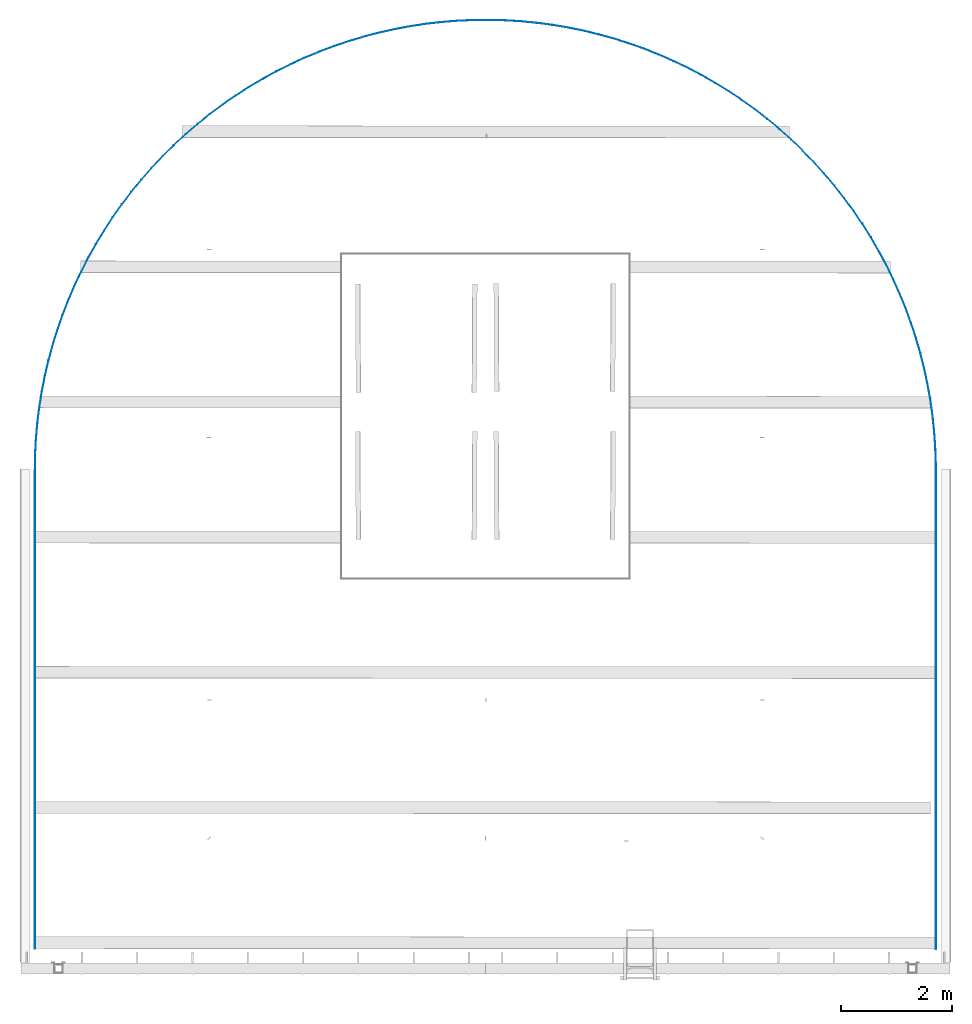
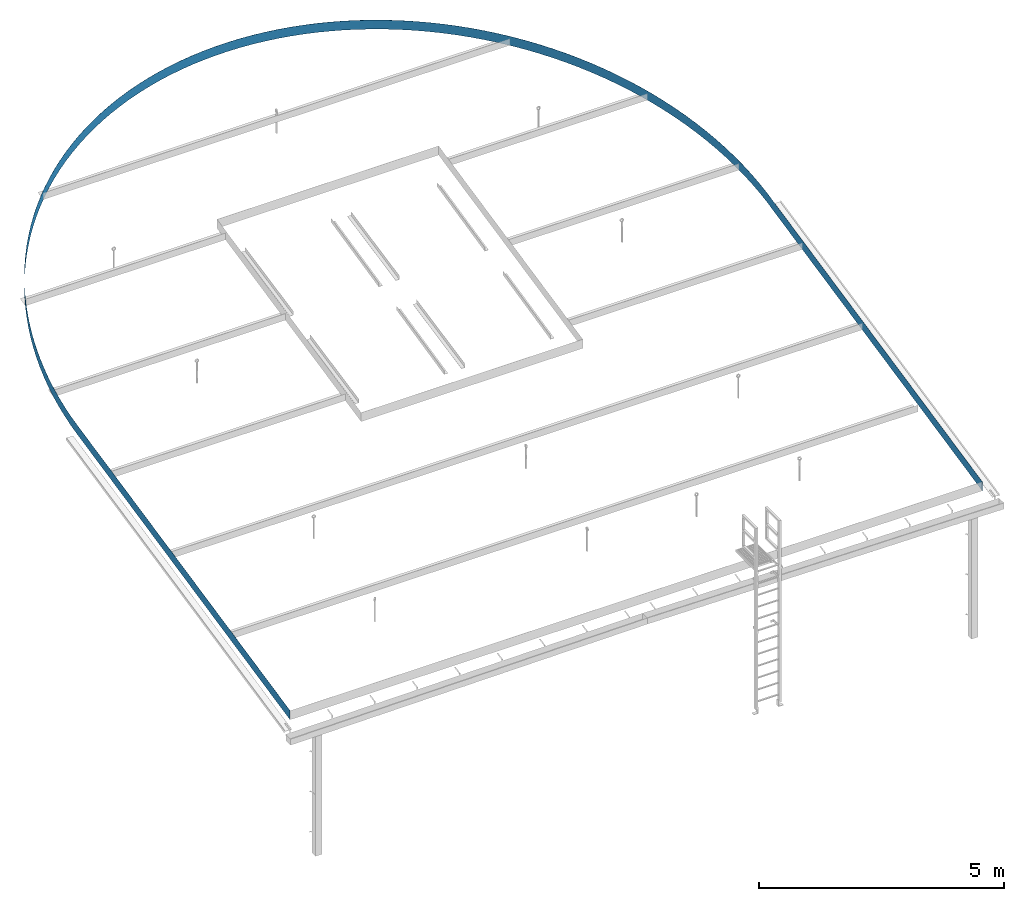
# One storey, part 5 of 7: 1 slab.
"""IFC4 building model written with IfcOpenShell, lengths in millimetres."""

from ifc_helpers import new_model, entity, si_unit, converted_unit, derived_unit, direction, frame, origin_with_axes, place, context, subcontext, project, spatial, polygons, material, type_object, element, save


model = new_model("IFC4")

# Units and contexts
model_context = context("Model", 3, precision=0.01, world=origin_with_axes(), true_north=direction((0.0, 1.0)))
body_context = subcontext(model_context, "Body", "Model", "MODEL_VIEW")
ifc_project = project(units=[si_unit("LENGTHUNIT", "METRE", prefix="MILLI"), si_unit("AREAUNIT", "SQUARE_METRE"), si_unit("VOLUMEUNIT", "CUBIC_METRE"), converted_unit("PLANEANGLEUNIT", "DEGREE", entity("IfcPlaneAngleMeasure", 0.0174532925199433), si_unit("PLANEANGLEUNIT", "RADIAN"), dimensions=[0, 0, 0, 0, 0, 0, 0]), converted_unit("TIMEUNIT", "Year", entity("IfcTimeMeasure", 31557600.0), si_unit("TIMEUNIT", "SECOND"), dimensions=[0, 0, 1, 0, 0, 0, 0]), si_unit("MASSUNIT", "GRAM", prefix="KILO"), si_unit("THERMODYNAMICTEMPERATUREUNIT", "DEGREE_CELSIUS"), si_unit("LUMINOUSINTENSITYUNIT", "LUMEN"), si_unit("ENERGYUNIT", "JOULE", prefix="MEGA"), derived_unit("THERMALCONDUCTANCEUNIT", [(si_unit("POWERUNIT", "WATT"), 1), (si_unit("LENGTHUNIT", "METRE"), -1), (si_unit("THERMODYNAMICTEMPERATUREUNIT", "KELVIN"), -1)]), derived_unit("SPECIFICHEATCAPACITYUNIT", [(si_unit("ENERGYUNIT", "JOULE"), 1), (si_unit("MASSUNIT", "GRAM", prefix="KILO"), -1), (si_unit("THERMODYNAMICTEMPERATUREUNIT", "KELVIN"), -1)]), derived_unit("MASSDENSITYUNIT", [(si_unit("MASSUNIT", "GRAM", prefix="KILO"), 1), (si_unit("VOLUMEUNIT", "CUBIC_METRE"), -1)])], contexts=[model_context])

# Site, building, storey
site_placement = place(None, origin_with_axes())
site = spatial("IfcSite", under=ifc_project, at=site_placement, Name="Exteriér", CompositionType="ELEMENT")
building_placement = place(site_placement, origin_with_axes())
building = spatial("IfcBuilding", under=site, at=building_placement, Name="Univerzitní lezecké centrum", CompositionType="ELEMENT")
storey_placement = place(building_placement, frame((0.0, 0.0, 12800.0), z_axis=(0.0, 0.0, 1.0), x_axis=(1.0, 0.0, 0.0)))
storey = spatial("IfcBuildingStorey", under=building, at=storey_placement, Name="Střecha", CompositionType="ELEMENT", Elevation=12800.0)

# Slab
ifc_material = material(Name="Hliníková kačírková lišta")
slab_type = type_object("IfcSlabType", Name="Hliníková kačírková lišta 220", PredefinedType="ROOF")
slab_placement = place(storey_placement, frame((-4500.148400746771, -15002.51969504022, -3082.928684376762), z_axis=(0.0, 0.0, 1.0), x_axis=(1.0, 0.0, 0.0)))
element("IfcSlab", 1, at=slab_placement, inside=storey, type_object=slab_type, material=ifc_material, Name="ZV06", PredefinedType="ROOF", context=body_context, shape_type="Tessellation", body=[
    polygons([(15067.89646109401, 24116.74411761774, 5351.172208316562), (15087.96103228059, 23831.40664921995, 5290.5218571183), (15097.99950309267, 23545.54074459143, 5229.759183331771), (15098.0000572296, 14752.5196946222, 3360.744862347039), (15098.00005487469, 14745.01969408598, 3359.150687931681), (15100.00005408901, 14745.01969408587, 3359.150687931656), (15099.99992345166, 23545.57675794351, 5229.766838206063), (15089.95927386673, 23831.50788553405, 5290.543375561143), (15069.89023190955, 24116.91050977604, 5351.207576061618), (15039.81752254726, 24401.43301595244, 5411.684701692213), (14999.77819521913, 24684.72487364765, 5471.900244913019), (14949.8215781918, 24966.43706859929, 5531.780020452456), (14890.00921778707, 25246.22253268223, 5591.250256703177), (14820.41480255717, 25523.73657149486, 5650.237686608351), (14741.12407250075, 25798.63728902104, 5708.669637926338), (14652.2347134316, 26070.58600884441, 5766.474122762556), (14553.85623663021, 26339.24769139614, 5823.579926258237), (14446.10984392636, 26604.2913467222, 5879.916694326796), (14329.12827837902, 26865.39044226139, 5935.41502032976), (14203.05566073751, 27122.22330513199, 5990.006530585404), (14068.04731188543, 27374.47351843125, 6043.623968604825), (13924.26956148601, 27621.83031105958, 6096.201277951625), (13771.89954306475, 27863.98894058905, 6147.673683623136), (13611.12497578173, 28100.65106870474, 6197.977771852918), (13442.14393316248, 28331.52512875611, 6247.051568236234), (13265.16459907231, 28556.32668496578, 6294.83461408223), (13080.40501123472, 28774.77878285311, 6341.268040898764), (12888.09279260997, 28986.61229044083, 6386.294642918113), (12688.46487096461, 29191.56622982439, 6429.858947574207), (12481.76718697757, 29389.38809869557, 6471.907283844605), (12268.25439124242, 29579.83418142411, 6512.387848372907), (12048.18953053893, 29762.66984931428, 6551.250769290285), (11821.84372376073, 29937.66984966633, 6588.448167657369), (11589.49582789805, 30104.61858328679, 6623.934216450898), (11351.43209448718, 30263.31037010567, 6657.665197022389), (11107.94581694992, 30413.54970257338, 6689.599552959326), (10859.33696925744, 30555.15148652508, 6719.69794128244), (10605.91183636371, 30687.94126921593, 6747.923280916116), (10347.98263686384, 30811.75545424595, 6774.240798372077), (10085.86713834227, 30926.44150311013, 6798.618070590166), (9819.888265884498, 31031.85812312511, 6821.025064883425), (9550.373704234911, 31127.87544150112, 6841.434175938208), (9277.655494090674, 31214.37516534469, 6859.820259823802), (9002.069623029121, 31291.2507273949, 6876.160664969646), (8723.955611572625, 31358.40741731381, 6890.435260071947), (8443.656094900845, 31415.7624983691, 6902.626458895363), (8161.516400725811, 31463.24530936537, 6912.719241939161), (7877.884123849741, 31500.79735169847, 6920.701174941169), (7593.108697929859, 31528.37236142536, 6926.562424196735), (7307.540964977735, 31545.93636626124, 6930.295768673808), (7021.532743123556, 31553.46772743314, 6931.896608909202), (6735.436393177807, 31550.95716633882, 6931.362972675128), (6449.604384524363, 31538.40777597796, 6928.695517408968), (6164.388860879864, 31515.83501714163, 6923.897529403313), (5880.141206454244, 31483.26669936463, 6916.974919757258), (5597.211613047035, 31440.74294666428, 6907.936217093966), (5315.948648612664, 31388.31614810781, 6896.792557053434), (5036.698827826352, 31326.05089326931, 6883.557668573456), (4759.806185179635, 31254.02389265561, 6868.247856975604), (4485.611851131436, 31172.32388319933, 6850.88198387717), (4214.453631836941, 31081.05151893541, 6831.481443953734), (3946.665592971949, 30980.31924699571, 6810.070138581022), (3682.577648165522, 30870.2511690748, 6786.674446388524), (3422.515152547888, 30750.9828885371, 6761.323190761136), (3166.798501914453, 30622.66134335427, 6734.047604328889), (2915.742737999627, 30485.44462507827, 6704.881290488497), (2669.657160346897, 30339.50178407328, 6673.860182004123), (2428.844945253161, 30185.01262124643, 6641.022496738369), (2193.602772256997, 30022.16746653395, 6606.40869056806), (1964.22045863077, 29851.16694441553, 6570.061407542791), (1740.980602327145, 29672.22172674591, 6532.025427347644), (1524.158233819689, 29485.5522732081, 6492.347610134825), (1314.020477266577, 29291.38855970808, 6451.076838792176), (1110.826221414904, 29089.96979504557, 6408.26395871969), (914.8258006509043, 28881.54412620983, 6363.961715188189), (726.2606865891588, 28666.36833266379, 6318.224688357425), (545.3631905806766, 28444.70750999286, 6271.109226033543), (372.3561775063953, 28216.83474330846, 6222.673374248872), (207.4527912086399, 27983.03077080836, 6172.976805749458), (50.85619189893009, 27743.58363790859, 6122.080746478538), (-97.2406941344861, 27498.78834237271, 6070.047900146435), (-236.6554122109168, 27248.94647087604, 6016.942370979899), (-367.2162040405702, 26994.36582745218, 5962.829584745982), (-488.7622193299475, 26735.36005427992, 5907.776208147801), (-601.1437139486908, 26472.24824527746, 5851.850066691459), (-704.2222344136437, 26205.35455298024, 5795.120061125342), (-797.8707884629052, 25935.00778918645, 5737.656082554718), (-881.974001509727, 25661.54101986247, 5679.528926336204), (-956.4282587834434, 25385.29115480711, 5620.810204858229), (-1021.141832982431, 25106.59853258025, 5561.572259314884), (-1076.034997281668, 24825.80650120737, 5501.888070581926), (-1121.040123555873, 24543.26099517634, 5441.831169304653), (-1156.101765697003, 24259.3101092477, 5381.475545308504), (-1181.176727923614, 23974.30366960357, 5320.895556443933), (-1196.234117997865, 23688.59280286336, 5260.165836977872), (-1199.999999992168, 23402.52950300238, 5199.361205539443), (-1200.006919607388, 14752.5206237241, 3360.74505974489), (-1196.995386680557, 14752.5196946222, 3360.745059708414), (-1198.27944808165, 23402.51986880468, 5199.359157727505), (-1198.274886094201, 23402.86638754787, 5199.432812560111), (-1194.514537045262, 23688.51787070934, 5260.149909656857), (-1179.460694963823, 23974.16351998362, 5320.865766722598), (-1154.391567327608, 24259.10490663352, 5381.43192814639), (-1119.338039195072, 24542.99098889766, 5441.773777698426), (-1074.343296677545, 24825.47201274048, 5501.816972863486), (-1019.462772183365, 25106.19996966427, 5561.487542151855), (-954.7640789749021, 25384.82899660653, 5620.711970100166), (-880.3269257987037, 25661.01582470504, 5679.417292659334), (-796.2430160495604, 25934.42020860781, 5737.531188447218), (-702.6159468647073, 26204.70528639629, 5794.982055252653), (-599.5610587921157, 26471.53809889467, 5851.69912041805), (-487.2053211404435, 26734.58988664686, 5907.612503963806), (-365.6871532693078, 26993.53658011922, 5962.653322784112), (-235.1562627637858, 27248.05916380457, 6016.753768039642), (-95.77346854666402, 27497.84405260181, 6069.847185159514), (52.28951639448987, 27742.58352681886, 6121.868166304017), (208.8502749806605, 27981.97605949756, 6172.752619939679), (373.7159267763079, 28215.72672350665, 6222.437857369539), (546.683357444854, 28443.54753858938, 6270.862666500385), (727.5394733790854, 28665.15783290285, 6317.967388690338), (916.0614572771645, 28880.28457779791, 6363.693989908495), (1112.017055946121, 29088.66274574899, 6407.986136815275), (1315.164847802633, 29290.03560859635, 6450.789260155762), (1525.254559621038, 29484.15508103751, 6492.05062777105), (1742.027360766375, 29670.78200736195, 6531.719405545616), (1965.216187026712, 29849.6864624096, 6569.746721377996), (2194.546070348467, 30020.64803691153, 6606.085725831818), (2429.734480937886, 30183.45611019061, 6640.691650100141), (2670.491664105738, 30337.91010013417, 6673.521859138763), (2916.521008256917, 30483.81972033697, 6704.535906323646), (3167.519410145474, 30621.00521396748, 6733.695583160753), (3423.177634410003, 30749.29756417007, 6760.96496400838), (3683.180719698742, 30868.53872113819, 6786.310454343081), (3947.208335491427, 30978.58177491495, 6809.70082748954), (4214.935205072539, 31079.29115582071, 6831.107267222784), (4486.031489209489, 31170.54278972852, 6850.503400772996), (4760.163200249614, 31252.22425599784, 6867.865332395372), (5036.992606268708, 31324.23492212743, 6883.171671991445), (5316.178656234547, 31386.48607123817, 6896.403562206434), (5597.377394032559, 31438.90101072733, 6907.54470152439), (5880.242385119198, 31481.41516651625, 6916.581364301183), (6164.425139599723, 31513.9761603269, 6923.50241719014), (6449.575546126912, 31536.5438766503, 6928.299333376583), (6735.342301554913, 31549.09051364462, 6930.966203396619), (7021.373340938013, 31551.60061299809, 6931.499741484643), (7307.316276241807, 31544.07108197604, 6929.899290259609), (7592.818827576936, 31526.51119697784, 6926.166821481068), (7877.529256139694, 31498.94259269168, 6920.306933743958), (8161.096801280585, 31461.39923279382, 6912.326846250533), (8443.17210733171, 31413.92737102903, 6902.236390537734), (8723.407660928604, 31356.58549150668, 6890.047997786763), (9001.458210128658, 31289.44424051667, 6875.776684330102), (9276.981202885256, 31212.58633315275, 6859.440031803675), (9549.637190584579, 31126.10646160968, 6841.058167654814), (9819.090264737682, 31030.11116741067, 6820.653737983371), (10085.00846279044, 30924.71871381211, 6798.251880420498), (10347.06416985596, 30810.0589476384, 6773.880194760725), (10604.93453760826, 30686.27312694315, 6747.568706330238), (10858.30187216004, 30553.51375465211, 6719.349830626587), (11106.85402187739, 30411.9443926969, 6689.258333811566), (11350.28477606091, 30261.73945030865, 6657.331287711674), (11588.29422668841, 30103.083981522, 6623.608026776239), (11820.58914703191, 29936.17344905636, 6588.130097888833), (12046.88335318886, 29761.21348377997, 6550.941209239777), (12266.89804858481, 29578.41963927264, 6512.087178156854), (12480.36217715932, 29388.01711545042, 6471.615872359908), (12687.01275466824, 29190.24048397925, 6429.577151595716), (12886.59518489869, 28985.33340905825, 6386.022808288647), (13078.86358597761, 28773.54833217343, 6341.006500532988), (13263.58108158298, 28555.14617497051, 6294.583688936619), (13440.52010280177, 28330.39600410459, 6246.811565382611), (13609.46266161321, 28099.57471089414, 6197.748984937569), (13770.20061817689, 27862.96667222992, 6147.456393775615), (13922.5359494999, 27620.86337857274, 6095.995750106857), (14066.2809735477, 27373.56311086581, 6043.430455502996), (14201.25860064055, 27121.3705338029, 5989.8252684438), (14327.30253950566, 26864.59634524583, 5935.246229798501), (14444.25750185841, 26603.55689845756, 5879.760582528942), (14551.97940194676, 26338.57378728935, 5823.4366835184), (14650.3355242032, 26069.97347787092, 5766.343925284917), (14739.20469901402, 25798.08686621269, 5708.552641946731), (14818.47743498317, 25523.24893640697, 5650.134036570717), (14888.05607079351, 25245.79827689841, 5591.1600783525), (14947.85488662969, 24966.0766976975, 5531.703421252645), (14997.80020882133, 24684.42883431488, 5471.837319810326), (15037.83050625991, 24401.20166364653, 5411.635526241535), (15067.89646109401, 24116.74411761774, 5126.172207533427), (15087.96103228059, 23831.40664921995, 5065.521856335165), (15097.99950309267, 23545.54074459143, 5004.759182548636), (15098.0000572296, 14752.5196946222, 3135.744861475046), (15098.00005508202, 14745.01969424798, 3134.150687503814), (15100.00005516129, 14745.01969424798, 3134.150687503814), (15099.99992384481, 23545.57673670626, 5004.766833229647), (15089.95927379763, 23831.50788782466, 5065.543375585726), (15069.89023176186, 24116.9105100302, 5126.207575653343), (15039.81752248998, 24401.43301318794, 5186.684700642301), (14999.77819497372, 24684.7248746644, 5246.900244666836), (14949.82157813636, 24966.43706906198, 5306.780020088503), (14890.00921819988, 25246.22253082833, 5366.25025584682), (14820.41480229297, 25523.73657399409, 5425.237686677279), (14741.12407266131, 25798.63728968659, 5483.669637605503), (14652.2347141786, 26070.58600658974, 5541.474121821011), (14553.85623662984, 26339.24769162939, 5598.579925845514), (14446.10984396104, 26604.29134707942, 5654.916693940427), (14329.12827889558, 26865.39044126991, 5710.415019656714), (14203.05566021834, 27122.22330674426, 5765.006530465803), (14068.04731232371, 27374.47351774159, 5818.623967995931), (13924.26956163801, 27621.8303106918, 5871.201277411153), (13771.89954236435, 27863.98894147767, 5922.673683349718), (13611.12497644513, 28100.65106721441, 5972.977771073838), (13442.14393143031, 28331.52513091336, 6022.051568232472), (13265.16460131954, 28556.32668140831, 6069.834612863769), (13080.40500955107, 28774.77878509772, 6116.268040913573), (12888.09279218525, 28986.61229106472, 6161.294642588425), (12688.46487097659, 29191.5662295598, 6204.858947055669), (12481.76718711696, 29389.38809809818, 6246.907283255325), (12268.25439176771, 29579.83418045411, 6287.387847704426), (12048.18952927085, 29762.66985035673, 6326.250769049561), (11821.8437264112, 29937.66984724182, 6363.448166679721), (11589.49582528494, 30104.61858574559, 6398.934216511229), (11351.43209396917, 30263.31037062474, 6432.665196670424), (11107.9458187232, 30413.54970094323, 6464.599552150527), (10859.33696810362, 30555.15148707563, 6494.697940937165), (10605.91183578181, 30687.94126927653, 6522.923280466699), (10347.98263764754, 30811.75545335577, 6549.240797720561), (10085.86713766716, 30926.44150323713, 6573.618070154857), (9819.888265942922, 31031.85812282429, 6596.025064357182), (9550.373704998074, 31127.87544096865, 6616.434175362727), (9277.655492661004, 31214.37516624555, 6634.820259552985), (9002.069624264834, 31291.25072698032, 6651.160664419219), (8723.955610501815, 31358.40741790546, 6665.435259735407), (8443.656096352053, 31415.76249775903, 6677.62645830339), (8161.516400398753, 31463.24530972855, 6687.719241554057), (7877.884124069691, 31500.79735203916, 6695.701174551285), (7593.108698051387, 31528.37236131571, 6701.562423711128), (7307.540965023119, 31545.93636665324, 6705.295768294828), (7021.53274314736, 31553.46772781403, 6706.89660852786), (6735.436392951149, 31550.95716659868, 6706.362972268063), (6449.604384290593, 31538.40777573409, 6703.695516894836), (6164.388860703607, 31515.83501719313, 6698.897528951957), (5880.141206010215, 31483.26669916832, 6691.97491925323), (5597.211613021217, 31440.74294633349, 6682.936216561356), (5315.948648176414, 31388.31614777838, 6671.792556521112), (5036.698827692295, 31326.05089317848, 6658.557668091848), (4759.806184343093, 31254.02389229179, 6643.247856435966), (4485.611852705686, 31172.32388394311, 6625.88198357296), (4214.453630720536, 31081.05151804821, 6606.481443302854), (3946.665592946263, 30980.31924666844, 6585.070138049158), (3682.5776484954, 30870.25116927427, 6561.674445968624), (3422.515154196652, 30750.98288945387, 6536.3231904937), (3166.798500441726, 30622.66134203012, 6509.047603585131), (2915.742737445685, 30485.44462456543, 6479.881289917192), (2669.657162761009, 30339.50178595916, 6448.860181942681), (2428.844944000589, 30185.01262011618, 6416.022496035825), (2193.602771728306, 30022.16746603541, 6381.408689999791), (1964.220460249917, 29851.16694596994, 6345.061407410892), (1740.980600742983, 29672.22172523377, 6307.025426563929), (1524.158234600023, 29485.55227434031, 6267.347609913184), (1314.020478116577, 29291.38856096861, 6226.076838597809), (1110.826220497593, 29089.96979404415, 6183.263958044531), (914.825800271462, 28881.54412571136, 6138.961714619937), (726.2606860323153, 28666.36833217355, 6093.22468779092), (545.3631916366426, 28444.70751179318, 6046.109225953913), (372.3561769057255, 28216.83474241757, 5997.673373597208), (207.4527904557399, 27983.03076943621, 5947.976804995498), (50.85619298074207, 27743.58364005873, 5897.080746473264), (-97.24069450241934, 27498.78834156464, 5845.047899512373), (-236.655413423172, 27248.94646853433, 5791.942370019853), (-367.2162030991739, 26994.36583048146, 5737.829584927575), (-488.7622197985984, 26735.36005385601, 5682.776207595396), (-601.1437134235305, 26472.24824711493, 5626.850066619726), (-704.22223565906, 26205.35454898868, 5570.120059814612), (-797.8707875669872, 25935.00779327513, 5512.656082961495), (-881.9740016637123, 25661.54101943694, 5454.528925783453), (-956.4282589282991, 25385.29115377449, 5395.810204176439), (-1021.141833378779, 25106.59853040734, 5336.572258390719), (-1076.034996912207, 24825.80650591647, 5276.888071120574), (-1121.040124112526, 24543.26099132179, 5216.831168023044), (-1156.101765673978, 24259.31011309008, 5156.475545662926), (-1181.176728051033, 23974.30366518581, 5095.89555504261), (-1196.234118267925, 23688.59280427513, 5035.165836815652), (-1200.000036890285, 23402.52672260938, 4974.360614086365), (-1200.006956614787, 14752.5206235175, 3135.745059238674), (-1196.995386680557, 14752.5196946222, 3135.744861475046), (-1198.27944808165, 23402.51986880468, 4974.35915694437), (-1198.274886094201, 23402.86638754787, 4974.432811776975), (-1194.514537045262, 23688.51787070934, 5035.14990887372), (-1179.460694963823, 23974.16351998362, 5095.865765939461), (-1154.391567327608, 24259.10490663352, 5156.431927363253), (-1119.338039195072, 24542.99098889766, 5216.773776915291), (-1074.343296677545, 24825.47201274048, 5276.816972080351), (-1019.462772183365, 25106.19996966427, 5336.487541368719), (-954.7640789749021, 25384.82899660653, 5395.711969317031), (-880.3269257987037, 25661.01582470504, 5454.417291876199), (-796.2430160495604, 25934.42020860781, 5512.531187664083), (-702.6159468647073, 26204.70528639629, 5569.982054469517), (-599.5610587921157, 26471.53809889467, 5626.699119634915), (-487.2053211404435, 26734.58988664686, 5682.612503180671), (-365.6871532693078, 26993.53658011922, 5737.653322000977), (-235.1562627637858, 27248.05916380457, 5791.753767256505), (-95.77346854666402, 27497.84405260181, 5844.847184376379), (52.28951639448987, 27742.58352681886, 5896.868165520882), (208.8502749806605, 27981.97605949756, 5947.752619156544), (373.7159267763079, 28215.72672350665, 5997.437856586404), (546.683357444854, 28443.54753858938, 6045.86266571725), (727.5394733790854, 28665.15783290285, 6092.967387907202), (916.0614572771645, 28880.28457779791, 6138.69398912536), (1112.017055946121, 29088.66274574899, 6182.98613603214), (1315.164847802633, 29290.03560859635, 6225.789259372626), (1525.254559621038, 29484.15508103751, 6267.050626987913), (1742.027360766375, 29670.78200736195, 6306.719404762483), (1965.216187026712, 29849.6864624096, 6344.746720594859), (2194.546070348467, 30020.64803691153, 6381.085725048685), (2429.734480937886, 30183.45611019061, 6415.691649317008), (2670.491664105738, 30337.91010013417, 6448.521858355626), (2916.521008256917, 30483.81972033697, 6479.535905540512), (3167.519410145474, 30621.00521396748, 6508.69558237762), (3423.177634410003, 30749.29756417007, 6535.964963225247), (3683.180719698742, 30868.53872113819, 6561.310453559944), (3947.208335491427, 30978.58177491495, 6584.700826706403), (4214.935205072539, 31079.29115582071, 6606.107266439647), (4486.031489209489, 31170.54278972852, 6625.503399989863), (4760.163200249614, 31252.22425599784, 6642.865331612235), (5036.992606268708, 31324.23492212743, 6658.171671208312), (5316.178656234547, 31386.48607123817, 6671.403561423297), (5597.377394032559, 31438.90101072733, 6682.544700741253), (5880.242385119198, 31481.41516651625, 6691.58136351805), (6164.425139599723, 31513.9761603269, 6698.502416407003), (6449.575546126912, 31536.5438766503, 6703.299332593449), (6735.342301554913, 31549.09051364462, 6705.966202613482), (7021.373340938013, 31551.60061299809, 6706.499740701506), (7307.316276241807, 31544.07108197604, 6704.899289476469), (7592.818827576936, 31526.51119697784, 6701.166820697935), (7877.529256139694, 31498.94259269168, 6695.306932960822), (8161.096801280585, 31461.39923279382, 6687.326845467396), (8443.17210733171, 31413.92737102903, 6677.236389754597), (8723.407660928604, 31356.58549150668, 6665.047997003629), (9001.458210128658, 31289.44424051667, 6650.776683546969), (9276.981202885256, 31212.58633315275, 6634.440031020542), (9549.637190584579, 31126.10646160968, 6616.058166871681), (9819.090264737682, 31030.11116741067, 6595.653737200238), (10085.00846279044, 30924.71871381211, 6573.251879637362), (10347.06416985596, 30810.0589476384, 6548.880193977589), (10604.93453760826, 30686.27312694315, 6522.568705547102), (10858.30187216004, 30553.51375465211, 6494.349829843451), (11106.85402187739, 30411.9443926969, 6464.258333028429), (11350.28477606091, 30261.73945030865, 6432.331286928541), (11588.29422668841, 30103.083981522, 6398.608025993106), (11820.58914703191, 29936.17344905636, 6363.1300971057), (12046.88335318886, 29761.21348377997, 6325.941208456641), (12266.89804858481, 29578.41963927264, 6287.087177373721), (12480.36217715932, 29388.01711545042, 6246.615871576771), (12687.01275466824, 29190.24048397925, 6204.577150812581), (12886.59518489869, 28985.33340905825, 6161.022807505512), (13078.86358597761, 28773.54833217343, 6116.006499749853), (13263.58108158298, 28555.14617497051, 6069.583688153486), (13440.52010280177, 28330.39600410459, 6021.811564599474), (13609.46266161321, 28099.57471089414, 5972.748984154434), (13770.20061817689, 27862.96667222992, 5922.45639299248), (13922.5359494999, 27620.86337857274, 5870.995749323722), (14066.2809735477, 27373.56311086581, 5818.430454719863), (14201.25860064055, 27121.3705338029, 5764.825267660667), (14327.30253950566, 26864.59634524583, 5710.246229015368), (14444.25750185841, 26603.55689845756, 5654.760581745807), (14551.97940194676, 26338.57378728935, 5598.436682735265), (14650.3355242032, 26069.97347787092, 5541.343924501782), (14739.20469901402, 25798.08686621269, 5483.552641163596), (14818.47743498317, 25523.24893640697, 5425.134035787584), (14888.05607079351, 25245.79827689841, 5366.160077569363), (14947.85488662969, 24966.0766976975, 5306.70342046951), (14997.80020882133, 24684.42883431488, 5246.837319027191), (15037.83050625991, 24401.20166364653, 5186.635525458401)], [[[1, 2, 3, 4, 5, 6, 7, 8, 9, 10, 11, 12, 13, 14, 15, 16, 17, 18, 19, 20, 21, 22, 23, 24, 25, 26, 27, 28, 29, 30, 31, 32, 33, 34, 35, 36, 37, 38, 39, 40, 41, 42, 43, 44, 45, 46, 47, 48, 49, 50, 51, 52, 53, 54, 55, 56, 57, 58, 59, 60, 61, 62, 63, 64, 65, 66, 67, 68, 69, 70, 71, 72, 73, 74, 75, 76, 77, 78, 79, 80, 81, 82, 83, 84, 85, 86, 87, 88, 89, 90, 91, 92, 93, 94, 95, 96, 97, 98, 99, 100, 101, 102, 103, 104, 105, 106, 107, 108, 109, 110, 111, 112, 113, 114, 115, 116, 117, 118, 119, 120, 121, 122, 123, 124, 125, 126, 127, 128, 129, 130, 131, 132, 133, 134, 135, 136, 137, 138, 139, 140, 141, 142, 143, 144, 145, 146, 147, 148, 149, 150, 151, 152, 153, 154, 155, 156, 157, 158, 159, 160, 161, 162, 163, 164, 165, 166, 167, 168, 169, 170, 171, 172, 173, 174, 175, 176, 177, 178, 179, 180, 181, 182, 183, 184, 185, 186]], [[2, 1, 187, 188]], [[3, 2, 188, 189]], [[4, 3, 189, 190]], [[4, 190, 191, 5]], [[192, 6, 5, 191]], [[193, 7, 6, 192]], [[194, 8, 7, 193]], [[195, 9, 8, 194]], [[196, 10, 9, 195]], [[197, 11, 10, 196]], [[198, 12, 11, 197]], [[199, 13, 12, 198]], [[200, 14, 13, 199]], [[201, 15, 14, 200]], [[202, 16, 15, 201]], [[203, 17, 16, 202]], [[204, 18, 17, 203]], [[205, 19, 18, 204]], [[206, 20, 19, 205]], [[207, 21, 20, 206]], [[208, 22, 21, 207]], [[209, 23, 22, 208]], [[210, 24, 23, 209]], [[211, 25, 24, 210]], [[212, 26, 25, 211]], [[213, 27, 26, 212]], [[214, 28, 27, 213]], [[215, 29, 28, 214]], [[216, 30, 29, 215]], [[217, 31, 30, 216]], [[218, 32, 31, 217]], [[219, 33, 32, 218]], [[220, 34, 33, 219]], [[221, 35, 34, 220]], [[222, 36, 35, 221]], [[223, 37, 36, 222]], [[224, 38, 37, 223]], [[225, 39, 38, 224]], [[226, 40, 39, 225]], [[227, 41, 40, 226]], [[228, 42, 41, 227]], [[229, 43, 42, 228]], [[230, 44, 43, 229]], [[231, 45, 44, 230]], [[232, 46, 45, 231]], [[233, 47, 46, 232]], [[234, 48, 47, 233]], [[235, 49, 48, 234]], [[236, 50, 49, 235]], [[237, 51, 50, 236]], [[238, 52, 51, 237]], [[239, 53, 52, 238]], [[240, 54, 53, 239]], [[241, 55, 54, 240]], [[242, 56, 55, 241]], [[243, 57, 56, 242]], [[244, 58, 57, 243]], [[245, 59, 58, 244]], [[246, 60, 59, 245]], [[247, 61, 60, 246]], [[248, 62, 61, 247]], [[249, 63, 62, 248]], [[250, 64, 63, 249]], [[251, 65, 64, 250]], [[252, 66, 65, 251]], [[253, 67, 66, 252]], [[254, 68, 67, 253]], [[255, 69, 68, 254]], [[256, 70, 69, 255]], [[257, 71, 70, 256]], [[258, 72, 71, 257]], [[259, 73, 72, 258]], [[260, 74, 73, 259]], [[261, 75, 74, 260]], [[262, 76, 75, 261]], [[263, 77, 76, 262]], [[264, 78, 77, 263]], [[265, 79, 78, 264]], [[266, 80, 79, 265]], [[267, 81, 80, 266]], [[268, 82, 81, 267]], [[269, 83, 82, 268]], [[270, 84, 83, 269]], [[271, 85, 84, 270]], [[272, 86, 85, 271]], [[273, 87, 86, 272]], [[274, 88, 87, 273]], [[275, 89, 88, 274]], [[276, 90, 89, 275]], [[277, 91, 90, 276]], [[278, 92, 91, 277]], [[279, 93, 92, 278]], [[280, 94, 93, 279]], [[281, 95, 94, 280]], [[282, 96, 95, 281]], [[283, 97, 96, 282]], [[284, 98, 97, 283]], [[99, 98, 284, 285]], [[100, 99, 285, 286]], [[101, 100, 286, 287]], [[102, 101, 287, 288]], [[103, 102, 288, 289]], [[104, 103, 289, 290]], [[105, 104, 290, 291]], [[106, 105, 291, 292]], [[107, 106, 292, 293]], [[108, 107, 293, 294]], [[109, 108, 294, 295]], [[110, 109, 295, 296]], [[111, 110, 296, 297]], [[112, 111, 297, 298]], [[113, 112, 298, 299]], [[114, 113, 299, 300]], [[115, 114, 300, 301]], [[116, 115, 301, 302]], [[117, 116, 302, 303]], [[118, 117, 303, 304]], [[119, 118, 304, 305]], [[120, 119, 305, 306]], [[121, 120, 306, 307]], [[122, 121, 307, 308]], [[123, 122, 308, 309]], [[124, 123, 309, 310]], [[125, 124, 310, 311]], [[126, 125, 311, 312]], [[127, 126, 312, 313]], [[128, 127, 313, 314]], [[129, 128, 314, 315]], [[130, 129, 315, 316]], [[131, 130, 316, 317]], [[132, 131, 317, 318]], [[133, 132, 318, 319]], [[134, 133, 319, 320]], [[135, 134, 320, 321]], [[136, 135, 321, 322]], [[137, 136, 322, 323]], [[138, 137, 323, 324]], [[139, 138, 324, 325]], [[140, 139, 325, 326]], [[141, 140, 326, 327]], [[142, 141, 327, 328]], [[143, 142, 328, 329]], [[144, 143, 329, 330]], [[145, 144, 330, 331]], [[146, 145, 331, 332]], [[147, 146, 332, 333]], [[148, 147, 333, 334]], [[149, 148, 334, 335]], [[150, 149, 335, 336]], [[151, 150, 336, 337]], [[152, 151, 337, 338]], [[153, 152, 338, 339]], [[154, 153, 339, 340]], [[155, 154, 340, 341]], [[156, 155, 341, 342]], [[157, 156, 342, 343]], [[158, 157, 343, 344]], [[159, 158, 344, 345]], [[160, 159, 345, 346]], [[161, 160, 346, 347]], [[162, 161, 347, 348]], [[163, 162, 348, 349]], [[164, 163, 349, 350]], [[165, 164, 350, 351]], [[166, 165, 351, 352]], [[167, 166, 352, 353]], [[168, 167, 353, 354]], [[169, 168, 354, 355]], [[170, 169, 355, 356]], [[171, 170, 356, 357]], [[172, 171, 357, 358]], [[173, 172, 358, 359]], [[174, 173, 359, 360]], [[175, 174, 360, 361]], [[176, 175, 361, 362]], [[177, 176, 362, 363]], [[178, 177, 363, 364]], [[179, 178, 364, 365]], [[180, 179, 365, 366]], [[181, 180, 366, 367]], [[182, 181, 367, 368]], [[183, 182, 368, 369]], [[184, 183, 369, 370]], [[185, 184, 370, 371]], [[186, 185, 371, 372]], [[1, 186, 372, 187]], [[285, 284, 283, 282, 281, 280, 279, 278, 277, 276, 275, 274, 273, 272, 271, 270, 269, 268, 267, 266, 265, 264, 263, 262, 261, 260, 259, 258, 257, 256, 255, 254, 253, 252, 251, 250, 249, 248, 247, 246, 245, 244, 243, 242, 241, 240, 239, 238, 237, 236, 235, 234, 233, 232, 231, 230, 229, 228, 227, 226, 225, 224, 223, 222, 221, 220, 219, 218, 217, 216, 215, 214, 213, 212, 211, 210, 209, 208, 207, 206, 205, 204, 203, 202, 201, 200, 199, 198, 197, 196, 195, 194, 193, 192, 191, 190, 189, 188, 187, 372, 371, 370, 369, 368, 367, 366, 365, 364, 363, 362, 361, 360, 359, 358, 357, 356, 355, 354, 353, 352, 351, 350, 349, 348, 347, 346, 345, 344, 343, 342, 341, 340, 339, 338, 337, 336, 335, 334, 333, 332, 331, 330, 329, 328, 327, 326, 325, 324, 323, 322, 321, 320, 319, 318, 317, 316, 315, 314, 313, 312, 311, 310, 309, 308, 307, 306, 305, 304, 303, 302, 301, 300, 299, 298, 297, 296, 295, 294, 293, 292, 291, 290, 289, 288, 287, 286]]], closed=True),
])

save(model, "model.ifc")
